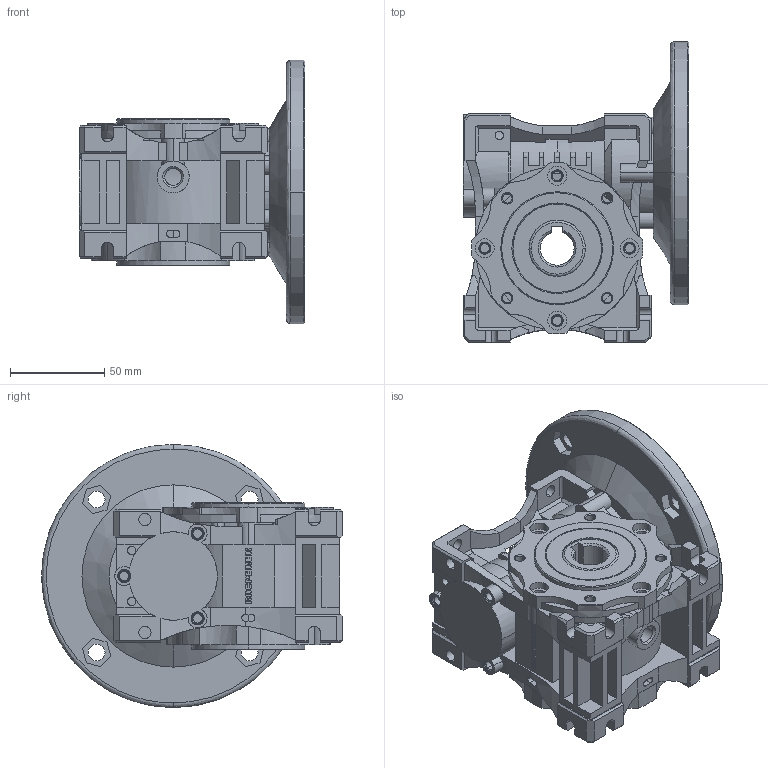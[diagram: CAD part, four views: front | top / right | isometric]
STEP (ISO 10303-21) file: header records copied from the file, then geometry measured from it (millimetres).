
FILE_DESCRIPTION (( 'STEP AP203' ), '1' );
FILE_NAME ('TM-040_140-11.STEP', '2023-03-21T07:21:33', ( '' ), ( '' ), 'SwSTEP 2.0', 'SolidWorks 2022', '' );
FILE_SCHEMA (( 'CONFIG_CONTROL_DESIGN' ));
Length unit declared in the file: millimetre
Products named in the file (1): TM-040_140-11
Bounding box: 120 x 159.97 x 139.93 mm (x, y, z)
Surface area: 145233 mm2 (no closed solid volume)
Topology: 0 solids, 19 shells, 1349 faces, 3669 edges, 2406 vertices
Faces by surface type: plane 659, cylinder 591, cone 81, bspline 18
Entity records: 53842 total; most frequent: CARTESIAN_POINT 24368, ORIENTED_EDGE 7266, DIRECTION 4259, EDGE_CURVE 3667, B_SPLINE_CURVE_WITH_KNOTS 2532, VERTEX_POINT 2406, AXIS2_PLACEMENT_3D 1812, EDGE_LOOP 1499
